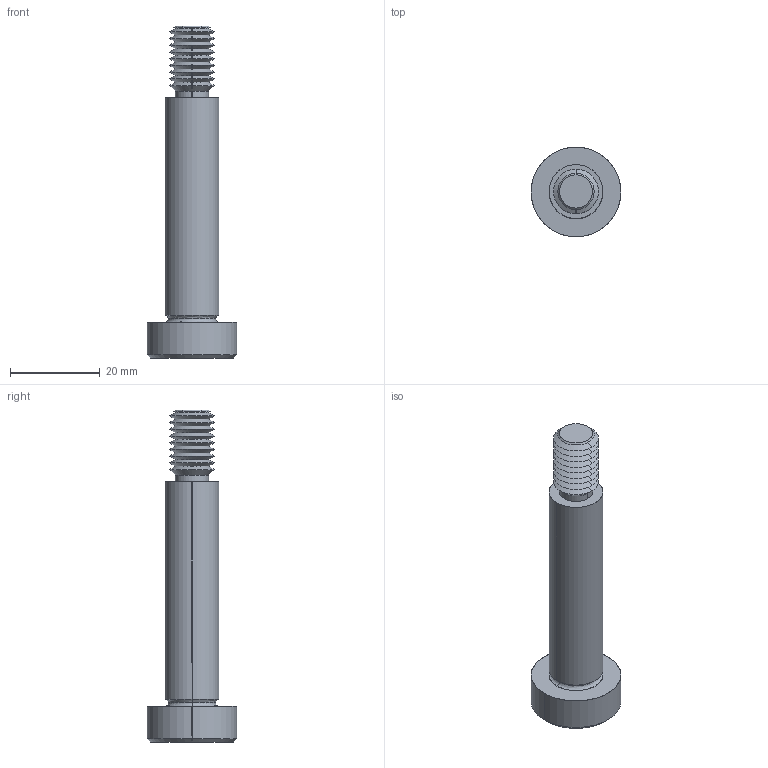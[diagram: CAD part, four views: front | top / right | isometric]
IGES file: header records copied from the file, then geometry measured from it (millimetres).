
Start section: SolidWorks IGES file using analytic representation for surfaces
Global section: file name: C:\Users\IanO\Documents\Temp Folder\GENERAL\SCREW REVISION\P0130_v2\P0130.T5_v2_20220106_IGES\P0130.120-050-T5.igs; native system: SolidWorks 2019; preprocessor: SolidWorks 2019; author: IanO; date: 220106.224910; units: millimetre
Bounding box: 20 x 20 x 74 mm (x, y, z)
Surface area: 3939.3 mm2 (no closed solid volume)
Topology: 0 solids, 0 shells, 76 faces, 564 edges, 562 vertices
Faces by surface type: revolution 56, bspline 20
